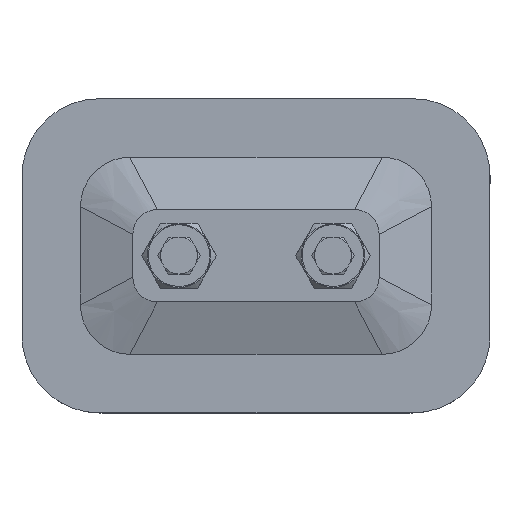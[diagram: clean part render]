
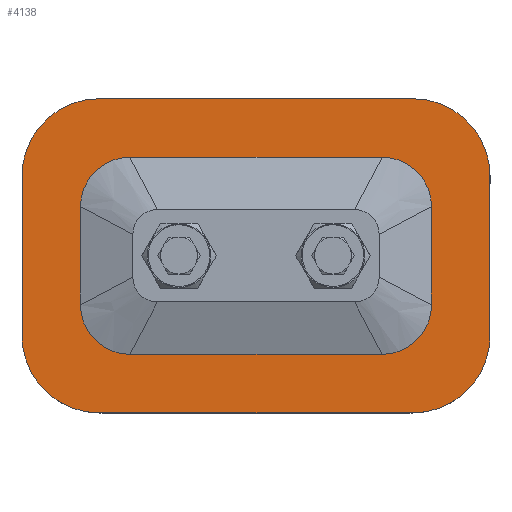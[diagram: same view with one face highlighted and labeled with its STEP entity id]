
A CAD part, top view. The second image highlights one B-rep face of the part: STEP entity #4138.
In plain terms, the highlighted planar face has unit normal (0, 0, 1).
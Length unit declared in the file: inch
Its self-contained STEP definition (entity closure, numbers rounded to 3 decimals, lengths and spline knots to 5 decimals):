
#104=LINE('',#6056,#408);
#108=LINE('',#6070,#412);
#111=LINE('',#6083,#415);
#114=LINE('',#6096,#418);
#214=LINE('',#6375,#518);
#217=LINE('',#6383,#521);
#220=LINE('',#6391,#524);
#223=LINE('',#6398,#527);
#408=VECTOR('',#4905,2.);
#412=VECTOR('',#4913,5.125);
#415=VECTOR('',#4920,2.);
#418=VECTOR('',#4927,5.125);
#518=VECTOR('',#5191,6.375);
#521=VECTOR('',#5200,3.25);
#524=VECTOR('',#5209,6.375);
#527=VECTOR('',#5218,3.25);
#743=PLANE('',#4477);
#901=FACE_BOUND('',#1407,.T.);
#1127=FACE_OUTER_BOUND('',#1406,.T.);
#1406=EDGE_LOOP('',(#3147,#3148,#3149,#3150,#3151,#3152,#3153,#3154));
#1407=EDGE_LOOP('',(#3155,#3156,#3157,#3158,#3159,#3160,#3161,#3162));
#1643=CIRCLE('',#4380,1.);
#1644=CIRCLE('',#4382,1.);
#1645=CIRCLE('',#4384,1.);
#1646=CIRCLE('',#4386,1.);
#1679=CIRCLE('',#4466,1.5625);
#1680=CIRCLE('',#4469,1.5625);
#1681=CIRCLE('',#4472,1.5625);
#1682=CIRCLE('',#4475,1.5625);
#1835=VERTEX_POINT('',#6054);
#1836=VERTEX_POINT('',#6055);
#1837=VERTEX_POINT('',#6065);
#1838=VERTEX_POINT('',#6069);
#1839=VERTEX_POINT('',#6078);
#1840=VERTEX_POINT('',#6082);
#1841=VERTEX_POINT('',#6091);
#1842=VERTEX_POINT('',#6095);
#1931=VERTEX_POINT('',#6368);
#1932=VERTEX_POINT('',#6369);
#1933=VERTEX_POINT('',#6374);
#1934=VERTEX_POINT('',#6378);
#1935=VERTEX_POINT('',#6382);
#1936=VERTEX_POINT('',#6386);
#1937=VERTEX_POINT('',#6390);
#1938=VERTEX_POINT('',#6394);
#2227=EDGE_CURVE('',#1835,#1836,#104,.T.);
#2230=EDGE_CURVE('',#1837,#1835,#1643,.T.);
#2232=EDGE_CURVE('',#1838,#1837,#108,.T.);
#2234=EDGE_CURVE('',#1839,#1838,#1644,.T.);
#2236=EDGE_CURVE('',#1840,#1839,#111,.T.);
#2238=EDGE_CURVE('',#1841,#1840,#1645,.T.);
#2240=EDGE_CURVE('',#1842,#1841,#114,.T.);
#2242=EDGE_CURVE('',#1836,#1842,#1646,.T.);
#2371=EDGE_CURVE('',#1931,#1932,#1679,.T.);
#2374=EDGE_CURVE('',#1932,#1933,#214,.T.);
#2376=EDGE_CURVE('',#1933,#1934,#1680,.T.);
#2378=EDGE_CURVE('',#1934,#1935,#217,.T.);
#2380=EDGE_CURVE('',#1935,#1936,#1681,.T.);
#2382=EDGE_CURVE('',#1936,#1937,#220,.T.);
#2384=EDGE_CURVE('',#1937,#1938,#1682,.T.);
#2386=EDGE_CURVE('',#1938,#1931,#223,.T.);
#3147=ORIENTED_EDGE('',*,*,#2371,.F.);
#3148=ORIENTED_EDGE('',*,*,#2386,.F.);
#3149=ORIENTED_EDGE('',*,*,#2384,.F.);
#3150=ORIENTED_EDGE('',*,*,#2382,.F.);
#3151=ORIENTED_EDGE('',*,*,#2380,.F.);
#3152=ORIENTED_EDGE('',*,*,#2378,.F.);
#3153=ORIENTED_EDGE('',*,*,#2376,.F.);
#3154=ORIENTED_EDGE('',*,*,#2374,.F.);
#3155=ORIENTED_EDGE('',*,*,#2227,.T.);
#3156=ORIENTED_EDGE('',*,*,#2242,.T.);
#3157=ORIENTED_EDGE('',*,*,#2240,.T.);
#3158=ORIENTED_EDGE('',*,*,#2238,.T.);
#3159=ORIENTED_EDGE('',*,*,#2236,.T.);
#3160=ORIENTED_EDGE('',*,*,#2234,.T.);
#3161=ORIENTED_EDGE('',*,*,#2232,.T.);
#3162=ORIENTED_EDGE('',*,*,#2230,.T.);
#4138=ADVANCED_FACE('',(#1127,#901),#743,.T.);
#4380=AXIS2_PLACEMENT_3D('',#6066,#4908,#4909);
#4382=AXIS2_PLACEMENT_3D('',#6079,#4915,#4916);
#4384=AXIS2_PLACEMENT_3D('',#6092,#4922,#4923);
#4386=AXIS2_PLACEMENT_3D('',#6104,#4929,#4930);
#4466=AXIS2_PLACEMENT_3D('',#6370,#5185,#5186);
#4469=AXIS2_PLACEMENT_3D('',#6379,#5195,#5196);
#4472=AXIS2_PLACEMENT_3D('',#6387,#5204,#5205);
#4475=AXIS2_PLACEMENT_3D('',#6395,#5213,#5214);
#4477=AXIS2_PLACEMENT_3D('',#6399,#5219,#5220);
#4905=DIRECTION('',(0.,1.,0.));
#4908=DIRECTION('center_axis',(0.,0.,
-1.));
#4909=DIRECTION('ref_axis',(-0.284,0.959,0.));
#4913=DIRECTION('',(-1.,0.,0.));
#4915=DIRECTION('center_axis',(0.,0.,
-1.));
#4916=DIRECTION('ref_axis',(-0.959,-0.284,0.));
#4920=DIRECTION('',(0.,-1.,0.));
#4922=DIRECTION('center_axis',(0.,0.,
-1.));
#4923=DIRECTION('ref_axis',(0.284,-0.959,0.));
#4927=DIRECTION('',(1.,0.,0.));
#4929=DIRECTION('center_axis',(0.,0.,
-1.));
#4930=DIRECTION('ref_axis',(0.959,0.284,0.));
#5185=DIRECTION('center_axis',(0.,0.,
-1.));
#5186=DIRECTION('ref_axis',(0.,-1.,0.));
#5191=DIRECTION('',(1.,0.,0.));
#5195=DIRECTION('center_axis',(0.,0.,
-1.));
#5196=DIRECTION('ref_axis',(-1.,0.,0.));
#5200=DIRECTION('',(0.,-1.,0.));
#5204=DIRECTION('center_axis',(0.,0.,
-1.));
#5205=DIRECTION('ref_axis',(0.,1.,0.));
#5209=DIRECTION('',(-1.,0.,0.));
#5213=DIRECTION('center_axis',(0.,0.,
-1.));
#5214=DIRECTION('ref_axis',(1.,0.,0.));
#5218=DIRECTION('',(0.,1.,0.));
#5219=DIRECTION('center_axis',(0.,0.,
1.));
#5220=DIRECTION('ref_axis',(-1.,0.,0.));
#6054=CARTESIAN_POINT('',(-3.5625,-1.,4.6875));
#6055=CARTESIAN_POINT('',(-3.5625,1.,4.6875));
#6056=CARTESIAN_POINT('',(-3.5625,0.5,4.6875));
#6065=CARTESIAN_POINT('',(-2.5625,-2.,4.6875));
#6066=CARTESIAN_POINT('Origin',(-2.5625,-1.,4.6875));
#6069=CARTESIAN_POINT('',(2.5625,-2.,4.6875));
#6070=CARTESIAN_POINT('',(-1.28125,-2.,4.6875));
#6078=CARTESIAN_POINT('',(3.5625,-1.,4.6875));
#6079=CARTESIAN_POINT('Origin',(2.5625,-1.,4.6875));
#6082=CARTESIAN_POINT('',(3.5625,1.,4.6875));
#6083=CARTESIAN_POINT('',(3.5625,-0.5,4.6875));
#6091=CARTESIAN_POINT('',(2.5625,2.,4.6875));
#6092=CARTESIAN_POINT('Origin',(2.5625,1.,4.6875));
#6095=CARTESIAN_POINT('',(-2.5625,2.,4.6875));
#6096=CARTESIAN_POINT('',(1.28125,2.,4.6875));
#6104=CARTESIAN_POINT('Origin',(-2.5625,1.,4.6875));
#6368=CARTESIAN_POINT('',(-4.75,1.625,4.6875));
#6369=CARTESIAN_POINT('',(-3.1875,3.1875,4.6875));
#6370=CARTESIAN_POINT('Origin',(-3.1875,1.625,4.6875));
#6374=CARTESIAN_POINT('',(3.1875,3.1875,4.6875));
#6375=CARTESIAN_POINT('',(-3.1875,3.1875,4.6875));
#6378=CARTESIAN_POINT('',(4.75,1.625,4.6875));
#6379=CARTESIAN_POINT('Origin',(3.1875,1.625,4.6875));
#6382=CARTESIAN_POINT('',(4.75,-1.625,4.6875));
#6383=CARTESIAN_POINT('',(4.75,1.625,4.6875));
#6386=CARTESIAN_POINT('',(3.1875,-3.1875,4.6875));
#6387=CARTESIAN_POINT('Origin',(3.1875,-1.625,4.6875));
#6390=CARTESIAN_POINT('',(-3.1875,-3.1875,4.6875));
#6391=CARTESIAN_POINT('',(3.1875,-3.1875,4.6875));
#6394=CARTESIAN_POINT('',(-4.75,-1.625,4.6875));
#6395=CARTESIAN_POINT('Origin',(-3.1875,-1.625,4.6875));
#6398=CARTESIAN_POINT('',(-4.75,-1.625,4.6875));
#6399=CARTESIAN_POINT('Origin',(0.,0.,
4.6875));
